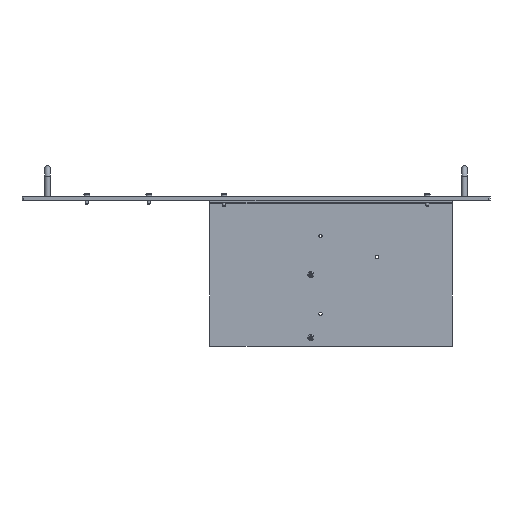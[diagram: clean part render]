
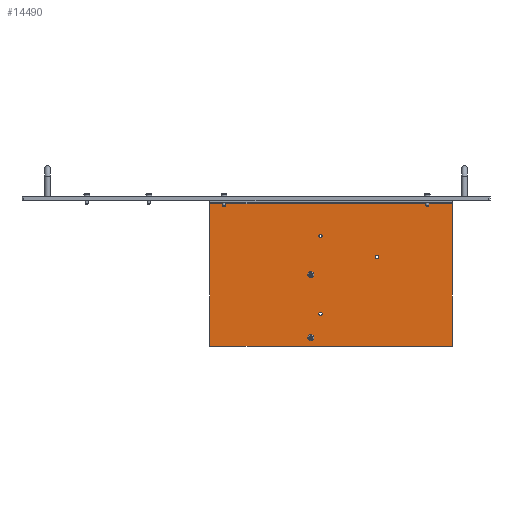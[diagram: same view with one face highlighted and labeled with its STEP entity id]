
A CAD part, front view. The second image highlights one B-rep face of the part: STEP entity #14490.
In plain terms, the highlighted planar face has unit normal (0, -1, 0).
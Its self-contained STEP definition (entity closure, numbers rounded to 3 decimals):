
#503=FACE_BOUND('',#5126,.T.);
#504=FACE_BOUND('',#5127,.T.);
#505=FACE_BOUND('',#5128,.T.);
#506=FACE_BOUND('',#5129,.T.);
#507=FACE_BOUND('',#5130,.T.);
#935=PLANE('',#15491);
#2162=LINE('',#23708,#3384);
#2163=LINE('',#23710,#3385);
#2164=LINE('',#23712,#3386);
#2165=LINE('',#23713,#3387);
#3384=VECTOR('',#18444,10.);
#3385=VECTOR('',#18445,10.);
#3386=VECTOR('',#18446,10.);
#3387=VECTOR('',#18447,10.);
#4250=FACE_OUTER_BOUND('',#5125,.T.);
#5125=EDGE_LOOP('',(#12064,#12065,#12066,#12067));
#5126=EDGE_LOOP('',(#12068));
#5127=EDGE_LOOP('',(#12069));
#5128=EDGE_LOOP('',(#12070,#12071));
#5129=EDGE_LOOP('',(#12072,#12073));
#5130=EDGE_LOOP('',(#12074,#12075));
#5632=CIRCLE('',#15492,3.);
#5633=CIRCLE('',#15493,3.);
#5634=CIRCLE('',#15494,1.75);
#5635=CIRCLE('',#15495,1.75);
#5636=CIRCLE('',#15496,1.75);
#5637=CIRCLE('',#15497,1.75);
#5638=CIRCLE('',#15498,1.75);
#5639=CIRCLE('',#15499,1.75);
#6796=VERTEX_POINT('',#23706);
#6797=VERTEX_POINT('',#23707);
#6798=VERTEX_POINT('',#23709);
#6799=VERTEX_POINT('',#23711);
#6800=VERTEX_POINT('',#23714);
#6801=VERTEX_POINT('',#23716);
#6802=VERTEX_POINT('',#23718);
#6803=VERTEX_POINT('',#23719);
#6804=VERTEX_POINT('',#23722);
#6805=VERTEX_POINT('',#23723);
#6806=VERTEX_POINT('',#23726);
#6807=VERTEX_POINT('',#23727);
#8600=EDGE_CURVE('',#6796,#6797,#2162,.T.);
#8601=EDGE_CURVE('',#6798,#6797,#2163,.T.);
#8602=EDGE_CURVE('',#6799,#6798,#2164,.T.);
#8603=EDGE_CURVE('',#6796,#6799,#2165,.T.);
#8604=EDGE_CURVE('',#6800,#6800,#5632,.T.);
#8605=EDGE_CURVE('',#6801,#6801,#5633,.T.);
#8606=EDGE_CURVE('',#6802,#6803,#5634,.T.);
#8607=EDGE_CURVE('',#6803,#6802,#5635,.T.);
#8608=EDGE_CURVE('',#6804,#6805,#5636,.T.);
#8609=EDGE_CURVE('',#6805,#6804,#5637,.T.);
#8610=EDGE_CURVE('',#6806,#6807,#5638,.T.);
#8611=EDGE_CURVE('',#6807,#6806,#5639,.T.);
#12064=ORIENTED_EDGE('',*,*,#8600,.T.);
#12065=ORIENTED_EDGE('',*,*,#8601,.F.);
#12066=ORIENTED_EDGE('',*,*,#8602,.F.);
#12067=ORIENTED_EDGE('',*,*,#8603,.F.);
#12068=ORIENTED_EDGE('',*,*,#8604,.F.);
#12069=ORIENTED_EDGE('',*,*,#8605,.F.);
#12070=ORIENTED_EDGE('',*,*,#8606,.T.);
#12071=ORIENTED_EDGE('',*,*,#8607,.T.);
#12072=ORIENTED_EDGE('',*,*,#8608,.T.);
#12073=ORIENTED_EDGE('',*,*,#8609,.T.);
#12074=ORIENTED_EDGE('',*,*,#8610,.T.);
#12075=ORIENTED_EDGE('',*,*,#8611,.T.);
#14490=ADVANCED_FACE('',(#4250,#503,#504,#505,#506,#507),#935,.T.);
#15491=AXIS2_PLACEMENT_3D('',#23705,#18442,#18443);
#15492=AXIS2_PLACEMENT_3D('',#23715,#18448,#18449);
#15493=AXIS2_PLACEMENT_3D('',#23717,#18450,#18451);
#15494=AXIS2_PLACEMENT_3D('',#23720,#18452,#18453);
#15495=AXIS2_PLACEMENT_3D('',#23721,#18454,#18455);
#15496=AXIS2_PLACEMENT_3D('',#23724,#18456,#18457);
#15497=AXIS2_PLACEMENT_3D('',#23725,#18458,#18459);
#15498=AXIS2_PLACEMENT_3D('',#23728,#18460,#18461);
#15499=AXIS2_PLACEMENT_3D('',#23729,#18462,#18463);
#18442=DIRECTION('center_axis',(0.,-1.,0.));
#18443=DIRECTION('ref_axis',(-1.,0.,0.));
#18444=DIRECTION('',(-1.,0.,0.));
#18445=DIRECTION('',(0.,0.,1.));
#18446=DIRECTION('',(-1.,0.,0.));
#18447=DIRECTION('',(0.,0.,-1.));
#18448=DIRECTION('center_axis',(0.,-1.,0.));
#18449=DIRECTION('ref_axis',(-1.,0.,0.));
#18450=DIRECTION('center_axis',(0.,-1.,0.));
#18451=DIRECTION('ref_axis',(-1.,0.,0.));
#18452=DIRECTION('center_axis',(0.,1.,0.));
#18453=DIRECTION('ref_axis',(-1.,0.,0.));
#18454=DIRECTION('center_axis',(0.,1.,0.));
#18455=DIRECTION('ref_axis',(-1.,0.,0.));
#18456=DIRECTION('center_axis',(0.,1.,0.));
#18457=DIRECTION('ref_axis',(-1.,0.,0.));
#18458=DIRECTION('center_axis',(0.,1.,0.));
#18459=DIRECTION('ref_axis',(-1.,0.,0.));
#18460=DIRECTION('center_axis',(0.,1.,0.));
#18461=DIRECTION('ref_axis',(-1.,0.,0.));
#18462=DIRECTION('center_axis',(0.,1.,0.));
#18463=DIRECTION('ref_axis',(-1.,0.,0.));
#23705=CARTESIAN_POINT('Origin',(77.5,-28.55,-75.));
#23706=CARTESIAN_POINT('',(202.5,-28.55,-3.));
#23707=CARTESIAN_POINT('',(-47.5,-28.55,-3.));
#23708=CARTESIAN_POINT('',(15.,-28.55,-3.));
#23709=CARTESIAN_POINT('',(-47.5,-28.55,-150.));
#23710=CARTESIAN_POINT('',(-47.5,-28.55,-150.));
#23711=CARTESIAN_POINT('',(202.5,-28.55,-150.));
#23712=CARTESIAN_POINT('',(202.5,-28.55,-150.));
#23713=CARTESIAN_POINT('',(202.5,-28.55,0.));
#23714=CARTESIAN_POINT('',(59.5,-28.55,-141.25));
#23715=CARTESIAN_POINT('Origin',(56.5,-28.55,-141.25));
#23716=CARTESIAN_POINT('',(59.5,-28.55,-76.25));
#23717=CARTESIAN_POINT('Origin',(56.5,-28.55,-76.25));
#23718=CARTESIAN_POINT('',(64.75,-28.55,-36.5));
#23719=CARTESIAN_POINT('',(68.25,-28.55,-36.5));
#23720=CARTESIAN_POINT('Origin',(66.5,-28.55,-36.5));
#23721=CARTESIAN_POINT('Origin',(66.5,-28.55,-36.5));
#23722=CARTESIAN_POINT('',(122.75,-28.55,-58.));
#23723=CARTESIAN_POINT('',(126.25,-28.55,-58.));
#23724=CARTESIAN_POINT('Origin',(124.5,-28.55,-58.));
#23725=CARTESIAN_POINT('Origin',(124.5,-28.55,-58.));
#23726=CARTESIAN_POINT('',(64.75,-28.55,-116.5));
#23727=CARTESIAN_POINT('',(68.25,-28.55,-116.5));
#23728=CARTESIAN_POINT('Origin',(66.5,-28.55,-116.5));
#23729=CARTESIAN_POINT('Origin',(66.5,-28.55,-116.5));
